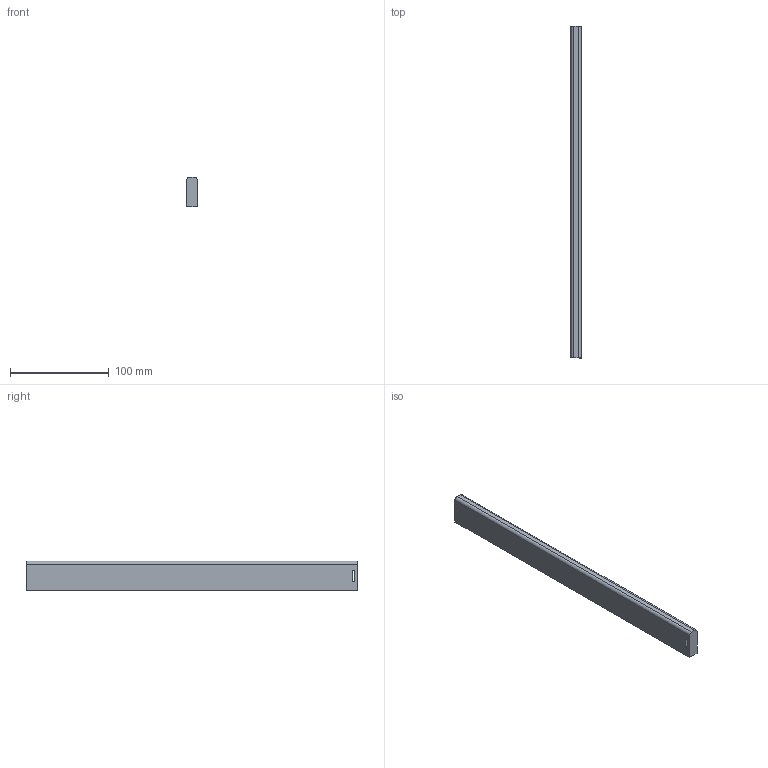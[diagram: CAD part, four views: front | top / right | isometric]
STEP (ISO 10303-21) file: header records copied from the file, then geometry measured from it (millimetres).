
FILE_DESCRIPTION (( 'STEP AP214' ), '1' );
FILE_NAME ('_Seitenreling_S760605500_RL335,5.step', '2010-09-06T14:51:25', ( 'grass' ), ( '' ), 'SwSTEP 2.0', 'SolidWorks 2010', '' );
FILE_SCHEMA (( 'AUTOMOTIVE_DESIGN' ));
Length unit declared in the file: millimetre
Products named in the file (1): _Seitenreling_S760605500_RL335,5
Bounding box: 10.5 x 335.5 x 30 mm (x, y, z)
Volume: 104147.8 mm3; surface area: 27145.9 mm2
Topology: 1 solids, 1 shells, 12 faces, 30 edges, 20 vertices
Faces by surface type: plane 8, cylinder 4
Entity records: 400 total; most frequent: DIRECTION 64, CARTESIAN_POINT 63, ORIENTED_EDGE 60, EDGE_CURVE 30, LINE 22, VECTOR 22, AXIS2_PLACEMENT_3D 21, VERTEX_POINT 20
